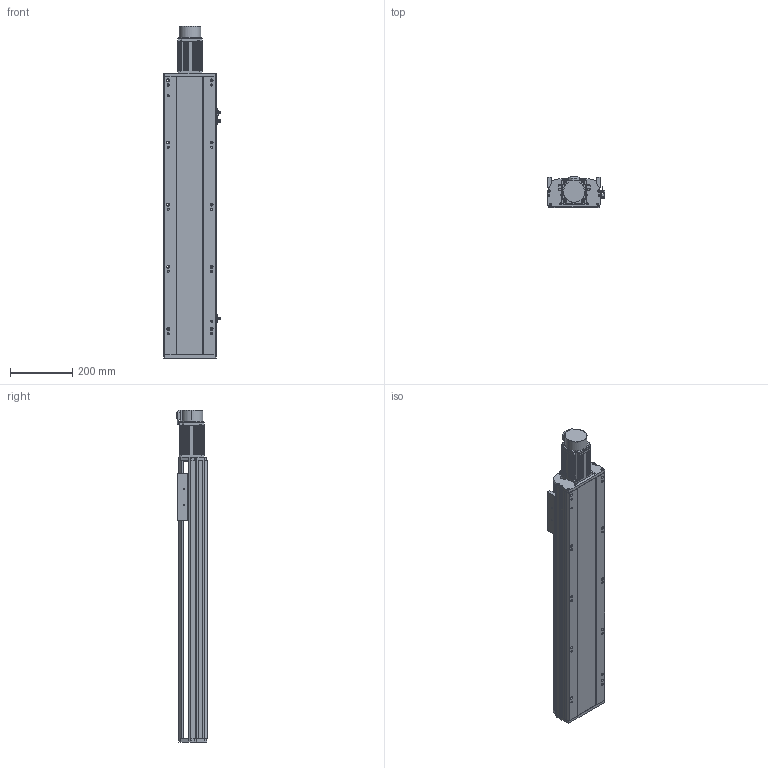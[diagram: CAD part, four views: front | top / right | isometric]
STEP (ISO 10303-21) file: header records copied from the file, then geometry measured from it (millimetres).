
FILE_DESCRIPTION (( 'STEP AP214' ), '1' );
FILE_NAME ('QTH17-650-BC-P75.STEP', '2021-11-13T08:52:22', ( '' ), ( '' ), 'SwSTEP 2.0', 'SolidWorks 2020', '' );
FILE_SCHEMA (( 'AUTOMOTIVE_DESIGN' ));
Length unit declared in the file: millimetre
Products named in the file (7): 葩璃 侂狟400W^QTH17-BC-P75; QTH17-650-BC-P75; 葩璃 侂狟750W^QTH17-BC-P75; 葩璃 QTH17-BC-005 賑釱MZ-170-03 ^QTH17-BC-P75_SFA20; 葩璃 pm-t65-672^QTH17-BC-P75; 葩璃 QTH17-BC-002 奻裔MZ-170-02^QTH17-BC-P75; 葩璃 QTH17-BC-001 菁釱MZ-170-01^QTH17-BC-P75
Assembly tree (8 placements, depth 2):
  QTH17-650-BC-P75
    葩璃 QTH17-BC-001 菁釱MZ-170-01^QTH17-BC-P75
    葩璃 QTH17-BC-002 奻裔MZ-170-02^QTH17-BC-P75
    葩璃 QTH17-BC-005 賑釱MZ-170-03 ^QTH17-BC-P75_SFA20
    葩璃 pm-t65-672^QTH17-BC-P75  x3
    葩璃 侂狟400W^QTH17-BC-P75
    葩璃 侂狟750W^QTH17-BC-P75
Bounding box: 183.7 x 99 x 1068.5 mm (x, y, z)
Volume: 10328542.6 mm3; surface area: 1068184.5 mm2
Topology: 13 solids, 13 shells, 1680 faces, 4505 edges, 2905 vertices
Faces by surface type: plane 961, cylinder 581, cone 99, bspline 39
Entity records: 46896 total; most frequent: CARTESIAN_POINT 8693, DIRECTION 7811, ORIENTED_EDGE 7578, EDGE_CURVE 3789, AXIS2_PLACEMENT_3D 2635, LINE 2541, VECTOR 2541, VERTEX_POINT 2481
